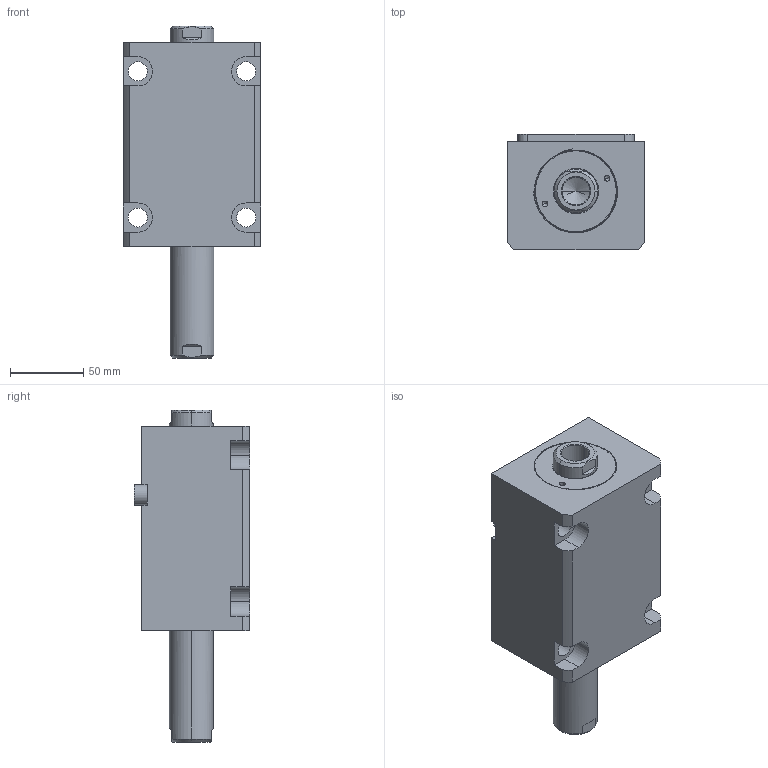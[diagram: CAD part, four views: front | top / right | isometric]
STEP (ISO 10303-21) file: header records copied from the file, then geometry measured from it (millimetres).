
FILE_DESCRIPTION (( 'STEP AP203' ), '1' );
FILE_NAME ('CHTB-LWM50-65N.STEP', '2018-05-22T07:35:52', ( '' ), ( '' ), 'SwSTEP 2.0', 'SolidWorks 2015', '' );
FILE_SCHEMA (( 'CONFIG_CONTROL_DESIGN' ));
Length unit declared in the file: millimetre
Products named in the file (4): CHTM-SDMA50QG; 掛极LWM50-65N; CHTB-LWM50-65N; 活塞杆LWM50-65N
Assembly tree (3 placements, depth 2):
  CHTB-LWM50-65N
    掛极LWM50-65N
    CHTM-SDMA50QG
    活塞杆LWM50-65N
Bounding box: 94 x 79 x 227 mm (x, y, z)
Volume: 881694.1 mm3; surface area: 137815.1 mm2
Topology: 3 solids, 3 shells, 213 faces, 571 edges, 374 vertices
Faces by surface type: cylinder 104, plane 57, cone 22, torus 16, bspline 14
Entity records: 11569 total; most frequent: CARTESIAN_POINT 6050, ORIENTED_EDGE 1126, DIRECTION 1011, EDGE_CURVE 563, AXIS2_PLACEMENT_3D 396, VERTEX_POINT 374, EDGE_LOOP 247, LINE 219
